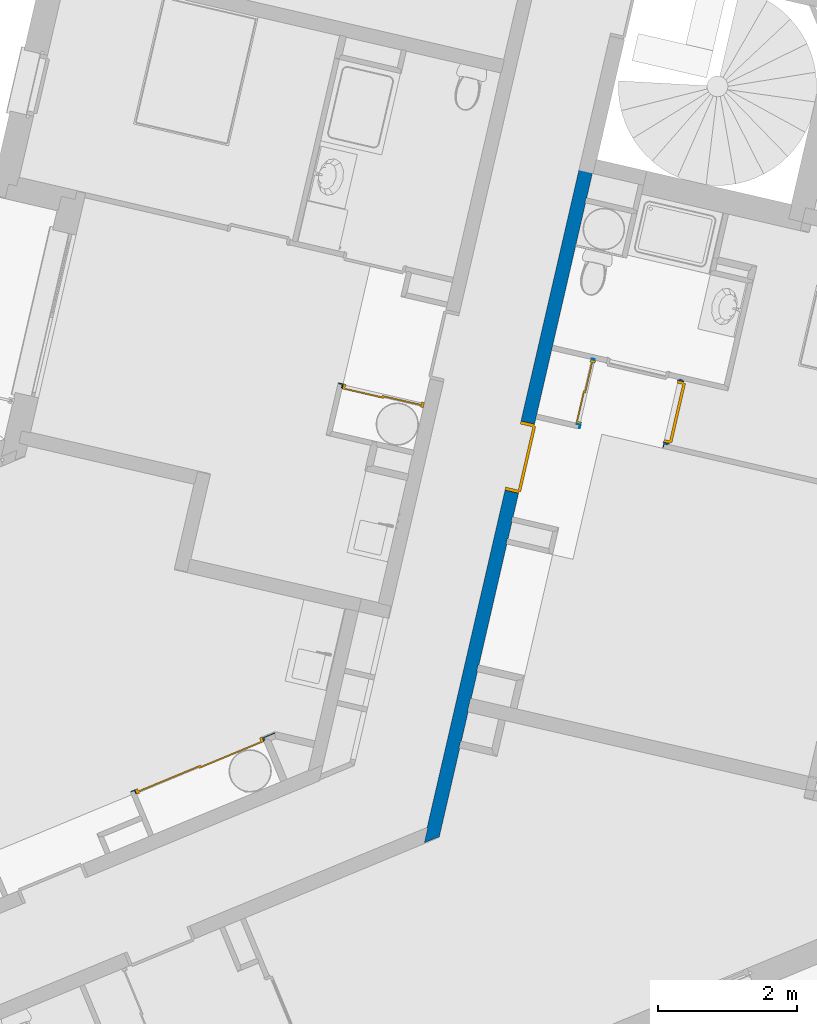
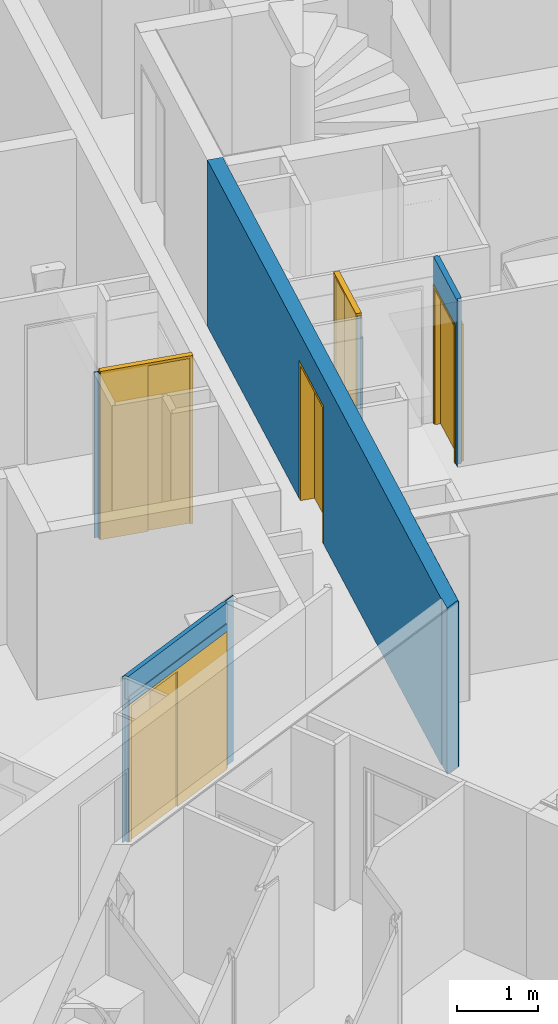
# One storey, part 18 of 90: 5 doors, 5 walls, 5 openings.
"""IFC2X3 building model written with IfcOpenShell, lengths in metres."""

from ifc_helpers import new_model, entity, si_unit, converted_unit, derived_unit, money_unit, direction, frame, origin_with_axes, place, context, subcontext, project, spatial, faceted_brep, source, transform, mapped, material, material_list, type_object, element, fill, save


model = new_model("IFC2X3")

# Units and contexts
model_context = context("Model", 3, precision=1e-05, world=origin_with_axes(), true_north=direction((0.0, 1.0)))
body_context = subcontext(model_context, "Body", "Model", "MODEL_VIEW")
ifc_project = project(units=[si_unit("LENGTHUNIT", "METRE"), si_unit("AREAUNIT", "SQUARE_METRE"), si_unit("VOLUMEUNIT", "CUBIC_METRE"), converted_unit("PLANEANGLEUNIT", "DEGREE", entity("IfcPlaneAngleMeasure", 0.0174532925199), si_unit("PLANEANGLEUNIT", "RADIAN"), dimensions=[0, 0, 0, 0, 0, 0, 0]), si_unit("SOLIDANGLEUNIT", "STERADIAN"), money_unit("EUR"), converted_unit("TIMEUNIT", "Year", entity("IfcTimeMeasure", 31556926.0), si_unit("TIMEUNIT", "SECOND"), dimensions=[0, 0, 1, 0, 0, 0, 0]), si_unit("MASSUNIT", "GRAM", prefix="KILO"), si_unit("THERMODYNAMICTEMPERATUREUNIT", "DEGREE_CELSIUS"), si_unit("LUMINOUSINTENSITYUNIT", "LUMEN"), si_unit("ENERGYUNIT", "JOULE", prefix="MEGA"), derived_unit("THERMALCONDUCTANCEUNIT", [(si_unit("POWERUNIT", "WATT"), 1), (si_unit("LENGTHUNIT", "METRE"), -1), (si_unit("THERMODYNAMICTEMPERATUREUNIT", "KELVIN"), -1)]), derived_unit("SPECIFICHEATCAPACITYUNIT", [(si_unit("ENERGYUNIT", "JOULE"), 1), (si_unit("MASSUNIT", "GRAM", prefix="KILO"), -1), (si_unit("THERMODYNAMICTEMPERATUREUNIT", "KELVIN"), -1)]), derived_unit("MASSDENSITYUNIT", [(si_unit("MASSUNIT", "GRAM", prefix="KILO"), 1), (si_unit("VOLUMEUNIT", "CUBIC_METRE"), -1)])], contexts=[model_context])

# Site, building, storey
site_placement = place(None, origin_with_axes())
site = spatial("IfcSite", under=ifc_project, at=site_placement, Name="Site", CompositionType="ELEMENT")
building_placement = place(site_placement, origin_with_axes())
building = spatial("IfcBuilding", under=site, at=building_placement, Name="Bâtiment", CompositionType="ELEMENT")
storey_placement = place(building_placement, frame((0.0, 0.0, 2.72), z_axis=(0.0, 0.0, 1.0), x_axis=(1.0, 0.0, 0.0)))
storey = spatial("IfcBuildingStorey", under=building, at=storey_placement, Name="R+1", CompositionType="ELEMENT", Elevation=2.72)

# Wall, opening, door
ifc_material_1 = material(Name="Finition int - Plaque de plâtre")
ifc_material_2 = material(Name="Isolation - Laine de roche")
ifc_material_list_1 = material_list([ifc_material_1, ifc_material_2, ifc_material_1])
wall_type_1 = type_object("IfcWallType", Name="3 - Cloison 72mm Placostil 74", PredefinedType="USERDEFINED")
wall_1_placement = place(storey_placement, frame((-17.9705088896, -17.8217225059, 0.0), z_axis=(0.0, 0.0, 1.0), x_axis=(0.923701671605, 0.383112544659, 0.0)))
wall_1 = element("IfcWall", 1, at=wall_1_placement, inside=storey, type_object=wall_type_1, material=ifc_material_list_1, Name="Cloison Placostil 72/48", ObjectType="PARTITIONING", context=body_context, shape_type="Brep", body=[
    faceted_brep([(0.0739999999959, -0.013, 0.0), (0.0739999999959, -0.013, 2.08), (2.05206633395, -0.0129999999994, 2.08), (2.05206633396, -0.0129999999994, 2.5), (0.0129999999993, -0.013, 2.5), (0.0129999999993, -0.013, 0.0), (0.0739999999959, 0.0, 0.0), (0.0739999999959, 0.0, 2.08), (2.05206633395, 0.0, 2.08), (2.05206633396, 0.0, 2.5), (0.013, 0.0, 2.5), (0.013, 0.0, 0.0)], [[[0, 1, 2, 3, 4, 5]], [[1, 0, 6, 7]], [[8, 2, 1, 7]], [[2, 8, 9, 3]], [[3, 9, 10, 4]], [[4, 10, 11, 5]], [[6, 0, 5, 11]], [[7, 6, 11, 10, 9, 8]]]),
    faceted_brep([(0.0739999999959, -0.061, 0.0), (0.0739999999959, -0.061, 2.08), (2.05206633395, -0.061, 2.08), (2.05206633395, -0.061, 0.0), (2.07806634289, -0.061, 0.0), (2.07806634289, -0.061, 2.5), (0.0609999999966, -0.061, 2.5), (0.0609999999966, -0.061, 0.0), (0.0739999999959, -0.013, 0.0), (0.0739999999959, -0.013, 2.08), (2.05206633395, -0.013, 2.08), (2.05206633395, -0.013, 0.0), (2.25206633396, -0.013, 0.0), (2.25206633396, -0.0260000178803, 0.0), (2.24378497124, -0.0260000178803, 0.0), (2.0780663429, -0.0260000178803, 0.0), (2.0780663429, -0.0260000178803, 2.5), (0.0609999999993, -0.013, 2.5), (2.24378497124, -0.0260000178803, 2.5), (2.25206633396, -0.0260000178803, 2.5), (2.25206633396, -0.013, 2.5), (0.0609999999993, -0.013, 0.0)], [[[0, 1, 2, 3, 4, 5, 6, 7]], [[1, 0, 8, 9]], [[2, 1, 9, 10]], [[3, 2, 10, 11]], [[3, 11, 12, 13, 14, 15, 4]], [[16, 5, 4, 15]], [[17, 6, 5, 16, 18, 19, 20]], [[6, 17, 21, 7]], [[8, 0, 7, 21]], [[9, 8, 21, 17, 20, 12, 11, 10]], [[19, 13, 12, 20]], [[19, 18, 16, 15, 14, 13]]]),
    faceted_brep([(0.0739999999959, -0.074, 2.08), (2.05206633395, -0.0739999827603, 2.08), (2.05206633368, -0.0739999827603, 2.2), (0.0739999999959, -0.074, 2.2), (2.05206633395, -0.061, 2.08), (0.0739999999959, -0.061, 2.08), (2.05206633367, -0.061, 2.2), (0.0739999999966, -0.061, 2.2)], [[[0, 1, 2, 3]], [[4, 1, 0, 5]], [[1, 4, 6, 2]], [[2, 6, 7, 3]], [[5, 0, 3, 7]], [[4, 5, 7, 6]]]),
])
opening_1_placement = place(wall_1_placement, frame((1.06303316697, 0.0, 0.0), z_axis=(0.0, 0.0, 1.0), x_axis=(1.0, 0.0, 0.0)))
opening_1 = element("IfcOpeningElement", 2, at=opening_1_placement, cuts=wall_1, Name="Por-002", context=body_context, shape_type="Brep", body=[
    faceted_brep([(0.989033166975, -0.074, 0.0), (-0.989033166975, -0.074, 0.0), (-0.989033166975, 0.074, 0.0), (0.989033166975, 0.074, 0.0), (0.989033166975, -0.074, 2.08), (-0.989033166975, -0.074, 2.08), (-0.989033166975, 0.074, 2.08), (0.989033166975, 0.074, 2.08)], [[[0, 1, 2, 3]], [[0, 4, 5, 1]], [[1, 5, 6, 2]], [[3, 2, 6, 7]], [[4, 0, 3, 7]], [[5, 4, 7, 6]]]),
])
door_style_1 = type_object("IfcDoorStyle", Name="Porte int générique 2019", ConstructionType="NOTDEFINED", OperationType="USERDEFINED", ParameterTakesPrecedence=False, Sizeable=False)
shared_shape_1 = source(origin_with_axes(), body_context, "Body", "Brep", [
    faceted_brep([(-0.989033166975, -0.006, 0.0), (-0.989033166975, -0.006, 2.08), (0.989033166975, -0.006, 2.08), (0.989033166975, -0.006, 0.0), (0.949033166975, -0.006, 0.0), (0.949033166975, -0.006, 2.04), (-0.949033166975, -0.006, 2.04), (-0.949033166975, -0.006, 0.0), (-0.989033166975, -0.08, 0.0), (-0.989033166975, -0.08, 2.08), (0.989033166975, -0.08, 2.08), (0.989033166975, -0.08, 0.0), (0.949033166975, -0.08, 0.0), (0.949033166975, -0.08, 2.04), (-0.949033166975, -0.08, 2.04), (-0.949033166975, -0.08, 0.0)], [[[0, 1, 2, 3, 4, 5, 6, 7]], [[8, 9, 1, 0]], [[9, 10, 2, 1]], [[10, 11, 3, 2]], [[3, 11, 12, 4]], [[5, 4, 12, 13]], [[6, 5, 13, 14]], [[7, 6, 14, 15]], [[0, 7, 15, 8]], [[15, 14, 13, 12, 11, 10, 9, 8]]]),
    faceted_brep([(-0.949033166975, -0.006, 0.0), (0.015, -0.006, 0.0), (0.015, -0.026, 0.0), (-0.949033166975, -0.026, 0.0), (-0.949033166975, -0.006, 2.04), (0.015, -0.006, 2.04), (0.015, -0.026, 2.04), (-0.949033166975, -0.026, 2.04)], [[[0, 1, 2, 3]], [[0, 4, 5, 1]], [[1, 5, 6, 2]], [[3, 2, 6, 7]], [[4, 0, 3, 7]], [[5, 4, 7, 6]]]),
    faceted_brep([(-0.015, -0.026, 0.0), (0.949033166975, -0.026, 0.0), (0.949033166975, -0.046, 0.0), (-0.015, -0.046, 0.0), (-0.015, -0.026, 2.04), (0.949033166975, -0.026, 2.04), (0.949033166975, -0.046, 2.04), (-0.015, -0.046, 2.04)], [[[0, 1, 2, 3]], [[0, 4, 5, 1]], [[1, 5, 6, 2]], [[3, 2, 6, 7]], [[4, 0, 3, 7]], [[5, 4, 7, 6]]]),
])
door_1_placement = place(opening_1_placement, frame((0.949033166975, 0.0, 0.0), z_axis=(0.0, 0.0, 1.0), x_axis=(-1.0, 0.0, 0.0)))
door_1 = element("IfcDoor", 3, at=door_1_placement, inside=storey, type_object=door_style_1, Name="Por-002", ObjectType="DOOR", OverallHeight=2.04, OverallWidth=1.89807, context=body_context, shape_type="MappedRepresentation", body=[
    mapped(shared_shape_1, transform((0.949033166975, 0.08, 0.0))),
])
fill(opening_1, door_1)

wall_2_placement = place(storey_placement, frame((-10.0917592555, -11.900312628, 0.0), z_axis=(0.0, 0.0, 1.0), x_axis=(-0.22487619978, -0.974387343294, 0.0)))
wall_2 = element("IfcWall", 4, at=wall_2_placement, inside=storey, type_object=wall_type_1, material=ifc_material_list_1, Name="Cloison Placostil 72/48", ObjectType="PARTITIONING", context=body_context, shape_type="Brep", body=[
    faceted_brep([(0.924458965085, 0.074, 0.0), (0.924458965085, 0.074, 2.08), (0.014458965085, 0.074, 2.08), (0.014458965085, 0.074, 0.0), (-8.62806714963e-10, 0.074, 0.0), (-8.62806714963e-10, 0.074, 2.5), (0.939833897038, 0.074, 2.5), (0.939833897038, 0.074, 0.0), (0.924458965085, 0.061, 0.0), (0.924458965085, 0.061, 2.08), (0.014458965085, 0.061, 2.08), (0.014458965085, 0.061, 0.0), (-8.63835225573e-10, 0.061, 0.0), (-8.63835225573e-10, 0.061, 2.5), (0.939833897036, 0.061, 2.5), (0.939833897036, 0.061, 0.0)], [[[0, 1, 2, 3, 4, 5, 6, 7]], [[1, 0, 8, 9]], [[2, 1, 9, 10]], [[3, 2, 10, 11]], [[3, 11, 12, 4]], [[4, 12, 13, 5]], [[6, 5, 13, 14]], [[7, 6, 14, 15]], [[8, 0, 7, 15]], [[9, 8, 15, 14, 13, 12, 11, 10]]]),
    faceted_brep([(0.924458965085, 0.061, 0.0), (0.924458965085, 0.061, 2.08), (0.014458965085, 0.061, 2.08), (0.014458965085, 0.061, 0.0), (-0.0130000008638, 0.061, 0.0), (-0.0130000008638, 0.061, 2.5), (0.952833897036, 0.061, 2.5), (0.952833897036, 0.061, 0.0), (0.924458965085, 0.013, 0.0), (0.924458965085, 0.013, 2.08), (0.014458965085, 0.013, 2.08), (0.014458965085, 0.013, 0.0), (-0.0130000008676, 0.013, 0.0), (-0.0130000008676, 0.013, 2.5), (0.952833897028, 0.013, 2.5), (0.952833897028, 0.013, 0.0)], [[[0, 1, 2, 3, 4, 5, 6, 7]], [[1, 0, 8, 9]], [[2, 1, 9, 10]], [[3, 2, 10, 11]], [[3, 11, 12, 4]], [[4, 12, 13, 5]], [[6, 5, 13, 14]], [[7, 6, 14, 15]], [[8, 0, 7, 15]], [[9, 8, 15, 14, 13, 12, 11, 10]]]),
    faceted_brep([(0.924458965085, 0.013, 0.0), (0.924458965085, 0.013, 2.08), (0.014458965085, 0.013, 2.08), (0.014458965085, 0.013, 0.0), (-8.67631300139e-10, 0.013, 0.0), (-8.67631300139e-10, 0.013, 2.5), (1.00083389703, 0.013, 2.5), (1.00083389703, 0.013, 0.0), (0.924458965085, 0.0, 0.0), (0.924458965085, 0.0, 2.08), (0.014458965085, 0.0, 2.08), (0.014458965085, 0.0, 0.0), (-8.68658034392e-10, 0.0, 0.0), (-8.68658034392e-10, 0.0, 2.5), (1.00083389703, 0.0, 2.5), (1.00083389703, 0.0, 0.0)], [[[0, 1, 2, 3, 4, 5, 6, 7]], [[1, 0, 8, 9]], [[2, 1, 9, 10]], [[3, 2, 10, 11]], [[3, 11, 12, 4]], [[4, 12, 13, 5]], [[6, 5, 13, 14]], [[7, 6, 14, 15]], [[8, 0, 7, 15]], [[9, 8, 15, 14, 13, 12, 11, 10]]]),
])
opening_2_placement = place(wall_2_placement, frame((0.469458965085, 0.0, 0.0), z_axis=(0.0, 0.0, 1.0), x_axis=(1.0, 0.0, 0.0)))
opening_2 = element("IfcOpeningElement", 5, at=opening_2_placement, cuts=wall_2, Name="Porte 83x204 bois alvéolaire", context=body_context, shape_type="Brep", body=[
    faceted_brep([(0.455, -0.074, 0.0), (-0.455, -0.074, 0.0), (-0.455, 0.074, 0.0), (0.455, 0.074, 0.0), (0.455, -0.074, 2.08), (-0.455, -0.074, 2.08), (-0.455, 0.074, 2.08), (0.455, 0.074, 2.08)], [[[0, 1, 2, 3]], [[0, 4, 5, 1]], [[1, 5, 6, 2]], [[3, 2, 6, 7]], [[4, 0, 3, 7]], [[5, 4, 7, 6]]]),
])
door_style_2 = type_object("IfcDoorStyle", Name="Porte int générique 2019", ConstructionType="NOTDEFINED", OperationType="SINGLE_SWING_RIGHT", ParameterTakesPrecedence=False, Sizeable=False)
shared_shape_2 = source(origin_with_axes(), body_context, "Body", "Brep", [
    faceted_brep([(0.455, 0.0, 0.0), (0.415, 0.0, 0.0), (0.415, 0.0, 2.04), (-0.415, 0.0, 2.04), (-0.415, 0.0, 0.0), (-0.455, 0.0, 0.0), (-0.455, 0.0, 2.08), (0.455, 0.0, 2.08), (0.455, -0.074, 0.0), (0.415, -0.074, 0.0), (0.415, -0.074, 2.04), (-0.415, -0.074, 2.04), (-0.415, -0.074, 0.0), (-0.455, -0.074, 0.0), (-0.455, -0.074, 2.08), (0.455, -0.074, 2.08)], [[[0, 1, 2, 3, 4, 5, 6, 7]], [[0, 8, 9, 1]], [[1, 9, 10, 2]], [[2, 10, 11, 3]], [[3, 11, 12, 4]], [[5, 4, 12, 13]], [[14, 6, 5, 13]], [[15, 7, 6, 14]], [[8, 0, 7, 15]], [[9, 8, 15, 14, 13, 12, 11, 10]]]),
    faceted_brep([(0.465, 0.0, 0.0), (0.465, 0.01, 0.0), (0.465, 0.01, 2.09), (0.465, 0.0, 2.09), (0.435, 0.0, 0.0), (0.435, 0.01, 0.0), (0.435, 0.01, 2.06), (-0.435, 0.01, 2.06), (-0.435, 0.01, 0.0), (-0.465, 0.01, 0.0), (-0.465, 0.01, 2.09), (-0.465, 0.0, 2.09), (-0.465, 0.0, 0.0), (-0.435, 0.0, 0.0), (-0.435, 0.0, 2.06), (0.435, 0.0, 2.06)], [[[0, 1, 2, 3]], [[0, 4, 5, 1]], [[1, 5, 6, 7, 8, 9, 10, 2]], [[3, 2, 10, 11]], [[4, 0, 3, 11, 12, 13, 14, 15]], [[5, 4, 15, 6]], [[6, 15, 14, 7]], [[7, 14, 13, 8]], [[12, 9, 8, 13]], [[11, 10, 9, 12]]]),
    faceted_brep([(0.465, -0.084, 0.0), (0.465, -0.074, 0.0), (0.465, -0.074, 2.09), (0.465, -0.084, 2.09), (0.435, -0.084, 0.0), (0.435, -0.074, 0.0), (0.435, -0.074, 2.06), (-0.435, -0.074, 2.06), (-0.435, -0.074, 0.0), (-0.465, -0.074, 0.0), (-0.465, -0.074, 2.09), (-0.465, -0.084, 2.09), (-0.465, -0.084, 0.0), (-0.435, -0.084, 0.0), (-0.435, -0.084, 2.06), (0.435, -0.084, 2.06)], [[[0, 1, 2, 3]], [[0, 4, 5, 1]], [[1, 5, 6, 7, 8, 9, 10, 2]], [[3, 2, 10, 11]], [[4, 0, 3, 11, 12, 13, 14, 15]], [[5, 4, 15, 6]], [[6, 15, 14, 7]], [[7, 14, 13, 8]], [[12, 9, 8, 13]], [[11, 10, 9, 12]]]),
    faceted_brep([(0.435, 0.04, 0.0), (0.435, 0.0, 0.0), (-0.435, 0.0, 0.0), (-0.435, 0.04, 0.0), (0.435, 0.04, 2.06), (0.435, 0.0, 2.06), (-0.435, 0.0, 2.06), (-0.435, 0.04, 2.06)], [[[0, 1, 2, 3]], [[4, 5, 1, 0]], [[1, 5, 6, 2]], [[3, 2, 6, 7]], [[0, 3, 7, 4]], [[7, 6, 5, 4]]]),
])
door_2_placement = place(opening_2_placement, frame((-0.415, 0.0, 0.0), z_axis=(0.0, 0.0, 1.0), x_axis=(1.0, 0.0, 0.0)))
door_2 = element("IfcDoor", 6, at=door_2_placement, inside=storey, type_object=door_style_2, Name="Porte 83x204 bois alvéolaire", ObjectType="DOOR", OverallHeight=2.04, OverallWidth=0.83, context=body_context, shape_type="MappedRepresentation", body=[
    mapped(shared_shape_2, transform((0.415, 0.074, 0.0))),
])
fill(opening_2, door_2)

ifc_material_list_2 = material_list([ifc_material_2, ifc_material_1])
wall_3_placement = place(storey_placement, frame((-11.5084989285, -12.6138305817, 0.0), z_axis=(0.0, 0.0, 1.0), x_axis=(0.224876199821, 0.974387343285, 0.0)))
wall_3 = element("IfcWall", 7, at=wall_3_placement, inside=storey, type_object=wall_type_1, material=ifc_material_list_2, Name="Cloison Placostil 72/48", ObjectType="PARTITIONING", context=body_context, shape_type="Brep", body=[
    faceted_brep([(0.0640000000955, 0.0130000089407, 0.0), (0.0640000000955, 0.0130000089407, 2.5), (0.0610000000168, 0.013, 2.5), (0.0610000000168, 0.013, 0.0), (0.0640000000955, 0.0610000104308, 2.5), (0.0640000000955, 0.0610000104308, 0.0), (0.0610000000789, 0.061, 2.5), (0.0610000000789, 0.061, 0.0)], [[[0, 1, 2, 3]], [[4, 1, 0, 5]], [[1, 4, 6, 2]], [[2, 6, 7, 3]], [[5, 0, 3, 7]], [[4, 5, 7, 6]]]),
    faceted_brep([(1.01383389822, 0.0610000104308, 2.5), (1.01383389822, 0.0130000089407, 2.5), (1.026833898, 0.013, 2.5), (1.026833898, 0.061, 2.5), (1.01383389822, 0.0130000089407, 0.0), (1.01383389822, 0.0610000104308, 0.0), (1.026833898, 0.013, 0.0), (1.026833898, 0.061, 0.0)], [[[0, 1, 2, 3]], [[4, 1, 0, 5]], [[1, 4, 6, 2]], [[2, 6, 7, 3]], [[5, 0, 3, 7]], [[4, 5, 7, 6]]]),
    faceted_brep([(0.0640000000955, 0.0, 0.0), (0.0640000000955, 0.0, 2.2), (0.013, 0.0, 2.2), (0.013, 0.0, 0.0), (0.0640000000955, 0.013, 2.2), (0.0640000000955, 0.0130000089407, 0.0), (0.0130000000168, 0.013, 2.2), (0.0130000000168, 0.013, 0.0)], [[[0, 1, 2, 3]], [[4, 1, 0, 5]], [[1, 4, 6, 2]], [[3, 2, 6, 7]], [[5, 0, 3, 7]], [[4, 5, 7, 6]]]),
])
opening_3_placement = place(wall_3_placement, frame((0.538916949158, 0.0, 0.0), z_axis=(0.0, 0.0, 1.0), x_axis=(1.0, 0.0, 0.0)))
opening_3 = element("IfcOpeningElement", 8, at=opening_3_placement, cuts=wall_3, Name="Por-002", context=body_context, shape_type="Brep", body=[
    faceted_brep([(-0.474916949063, 0.074, 0.0), (0.474916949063, 0.074, 0.0), (0.474916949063, -0.074, 0.0), (-0.474916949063, -0.074, 0.0), (-0.474916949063, 0.074, 2.54), (0.474916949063, 0.074, 2.54), (0.474916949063, -0.074, 2.54), (-0.474916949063, -0.074, 2.54)], [[[0, 1, 2, 3]], [[0, 4, 5, 1]], [[1, 5, 6, 2]], [[3, 2, 6, 7]], [[4, 0, 3, 7]], [[5, 4, 7, 6]]]),
])
shared_shape_3 = source(origin_with_axes(), body_context, "Body", "Brep", [
    faceted_brep([(-0.474916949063, -0.006, 0.0), (-0.474916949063, -0.006, 2.54), (0.474916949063, -0.006, 2.54), (0.474916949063, -0.006, 0.0), (0.434916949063, -0.006, 0.0), (0.434916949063, -0.006, 2.5), (-0.434916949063, -0.006, 2.5), (-0.434916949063, -0.006, 0.0), (-0.474916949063, -0.08, 0.0), (-0.474916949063, -0.08, 2.54), (0.474916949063, -0.08, 2.54), (0.474916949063, -0.08, 0.0), (0.434916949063, -0.08, 0.0), (0.434916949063, -0.08, 2.5), (-0.434916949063, -0.08, 2.5), (-0.434916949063, -0.08, 0.0)], [[[0, 1, 2, 3, 4, 5, 6, 7]], [[8, 9, 1, 0]], [[9, 10, 2, 1]], [[10, 11, 3, 2]], [[3, 11, 12, 4]], [[5, 4, 12, 13]], [[6, 5, 13, 14]], [[7, 6, 14, 15]], [[0, 7, 15, 8]], [[15, 14, 13, 12, 11, 10, 9, 8]]]),
    faceted_brep([(-0.434916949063, -0.006, 0.0), (0.015, -0.006, 0.0), (0.015, -0.026, 0.0), (-0.434916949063, -0.026, 0.0), (-0.434916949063, -0.006, 2.5), (0.015, -0.006, 2.5), (0.015, -0.026, 2.5), (-0.434916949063, -0.026, 2.5)], [[[0, 1, 2, 3]], [[0, 4, 5, 1]], [[1, 5, 6, 2]], [[3, 2, 6, 7]], [[4, 0, 3, 7]], [[5, 4, 7, 6]]]),
    faceted_brep([(-0.015, -0.026, 0.0), (0.434916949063, -0.026, 0.0), (0.434916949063, -0.046, 0.0), (-0.015, -0.046, 0.0), (-0.015, -0.026, 2.5), (0.434916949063, -0.026, 2.5), (0.434916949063, -0.046, 2.5), (-0.015, -0.046, 2.5)], [[[0, 1, 2, 3]], [[0, 4, 5, 1]], [[1, 5, 6, 2]], [[3, 2, 6, 7]], [[4, 0, 3, 7]], [[5, 4, 7, 6]]]),
])
door_3_placement = place(opening_3_placement, frame((-0.434916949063, 0.0, 0.0), z_axis=(0.0, 0.0, 1.0), x_axis=(1.0, 0.0, 0.0)))
door_3 = element("IfcDoor", 9, at=door_3_placement, inside=storey, type_object=door_style_1, Name="Por-002", ObjectType="DOOR", OverallHeight=2.5, OverallWidth=0.869834, context=body_context, shape_type="MappedRepresentation", body=[
    mapped(shared_shape_3, transform((0.434916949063, 0.08, 0.0))),
])
fill(opening_3, door_3)

ifc_material_list_3 = material_list([ifc_material_1, ifc_material_2])
wall_4_placement = place(storey_placement, frame((-14.9812094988, -11.9457528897, 0.0), z_axis=(0.0, 0.0, 1.0), x_axis=(0.974387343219, -0.224876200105, 0.0)))
wall_4 = element("IfcWall", 10, at=wall_4_placement, inside=storey, type_object=wall_type_1, material=ifc_material_list_3, Name="Cloison Placostil 72/48", ObjectType="PARTITIONING", context=body_context, shape_type="Brep", body=[
    faceted_brep([(0.0739999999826, -0.013, 2.2), (0.0739999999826, 0.0, 2.2), (0.0740000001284, 0.0, 2.5), (0.0740000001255, -0.013, 2.5), (0.0739999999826, 0.0, 0.0), (0.0739999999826, -0.013, 0.0), (0.013, 0.0, 0.0), (0.013, 0.0, 2.5), (0.0129999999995, -0.013, 2.5), (0.0129999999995, -0.013, 0.0)], [[[0, 1, 2, 3]], [[4, 1, 0, 5]], [[1, 4, 6, 7, 2]], [[2, 7, 8, 3]], [[5, 0, 3, 8, 9]], [[4, 5, 9, 6]], [[8, 7, 6, 9]]]),
    faceted_brep([(0.0739999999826, -0.061, 2.5), (0.0739999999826, -0.013, 2.5), (0.0609999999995, -0.013, 2.5), (0.0609999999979, -0.061, 2.5), (0.0739999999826, -0.013, 0.0), (0.0739999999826, -0.061, 0.0), (0.0609999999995, -0.013, 0.0), (0.0609999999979, -0.061, 0.0)], [[[0, 1, 2, 3]], [[4, 1, 0, 5]], [[1, 4, 6, 2]], [[3, 2, 6, 7]], [[5, 0, 3, 7]], [[4, 5, 7, 6]]]),
])
opening_4_placement = place(wall_4_placement, frame((0.673999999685, 0.0, 0.0), z_axis=(0.0, 0.0, 1.0), x_axis=(1.0, 0.0, 0.0)))
opening_4 = element("IfcOpeningElement", 11, at=opening_4_placement, cuts=wall_4, Name="Por-002", context=body_context, shape_type="Brep", body=[
    faceted_brep([(-0.599999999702, 0.074, 0.0), (0.599999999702, 0.074, 0.0), (0.599999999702, -0.074, 0.0), (-0.599999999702, -0.074, 0.0), (-0.599999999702, 0.074, 2.54), (0.599999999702, 0.074, 2.54), (0.599999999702, -0.074, 2.54), (-0.599999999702, -0.074, 2.54)], [[[0, 1, 2, 3]], [[0, 4, 5, 1]], [[1, 5, 6, 2]], [[3, 2, 6, 7]], [[4, 0, 3, 7]], [[5, 4, 7, 6]]]),
])
shared_shape_4 = source(origin_with_axes(), body_context, "Body", "Brep", [
    faceted_brep([(0.599999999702, -0.006, 0.0), (0.559999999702, -0.006, 0.0), (0.559999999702, -0.006, 2.5), (-0.559999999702, -0.006, 2.5), (-0.559999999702, -0.006, 0.0), (-0.599999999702, -0.006, 0.0), (-0.599999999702, -0.006, 2.54), (0.599999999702, -0.006, 2.54), (0.599999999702, -0.08, 0.0), (0.559999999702, -0.08, 0.0), (0.559999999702, -0.08, 2.5), (-0.559999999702, -0.08, 2.5), (-0.559999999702, -0.08, 0.0), (-0.599999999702, -0.08, 0.0), (-0.599999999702, -0.08, 2.54), (0.599999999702, -0.08, 2.54)], [[[0, 1, 2, 3, 4, 5, 6, 7]], [[0, 8, 9, 1]], [[1, 9, 10, 2]], [[2, 10, 11, 3]], [[3, 11, 12, 4]], [[5, 4, 12, 13]], [[14, 6, 5, 13]], [[15, 7, 6, 14]], [[8, 0, 7, 15]], [[9, 8, 15, 14, 13, 12, 11, 10]]]),
    faceted_brep([(0.559999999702, -0.006, 0.0), (0.559999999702, -0.026, 0.0), (-0.015, -0.026, 0.0), (-0.015, -0.006, 0.0), (0.559999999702, -0.006, 2.5), (0.559999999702, -0.026, 2.5), (-0.015, -0.026, 2.5), (-0.015, -0.006, 2.5)], [[[0, 1, 2, 3]], [[4, 5, 1, 0]], [[1, 5, 6, 2]], [[3, 2, 6, 7]], [[0, 3, 7, 4]], [[7, 6, 5, 4]]]),
    faceted_brep([(0.015, -0.026, 0.0), (0.015, -0.046, 0.0), (-0.559999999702, -0.046, 0.0), (-0.559999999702, -0.026, 0.0), (0.015, -0.026, 2.5), (0.015, -0.046, 2.5), (-0.559999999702, -0.046, 2.5), (-0.559999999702, -0.026, 2.5)], [[[0, 1, 2, 3]], [[4, 5, 1, 0]], [[1, 5, 6, 2]], [[3, 2, 6, 7]], [[0, 3, 7, 4]], [[7, 6, 5, 4]]]),
])
door_4_placement = place(opening_4_placement, frame((0.559999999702, 0.0, 0.0), z_axis=(0.0, 0.0, 1.0), x_axis=(-1.0, 0.0, 0.0)))
door_4 = element("IfcDoor", 12, at=door_4_placement, inside=storey, type_object=door_style_1, Name="Por-002", ObjectType="DOOR", OverallHeight=2.5, OverallWidth=1.12, context=body_context, shape_type="MappedRepresentation", body=[
    mapped(shared_shape_4, transform((0.559999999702, 0.08, 0.0))),
])
fill(opening_4, door_4)

ifc_material_3 = material(Name="Finition int - Enduit plâtre")
ifc_material_4 = material(Name="Béton")
ifc_material_list_4 = material_list([ifc_material_3, ifc_material_4, ifc_material_3])
wall_type_2 = type_object("IfcWallType", Name="2 - Murs Béton 18 + Enduit 2 Faces 200", PredefinedType="USERDEFINED")
wall_5_placement = place(storey_placement, frame((-11.4688567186, -8.70667246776, 0.0), z_axis=(0.0, 0.0, 1.0), x_axis=(-0.224876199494, -0.97438734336, 0.0)))
wall_5 = element("IfcWall", 13, at=wall_5_placement, inside=storey, type_object=wall_type_2, material=ifc_material_list_4, Name="M_Ext-009", ObjectType="SOLIDWALL", context=body_context, shape_type="Brep", body=[
    faceted_brep([(4.91100000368, 0.19, 0.0), (4.91100000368, 0.19, 2.085), (3.89100000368, 0.19, 2.085), (3.89100000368, 0.19, 0.0), (0.629000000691, 0.19, 0.0), (0.629000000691, 0.19, 2.5), (0.555000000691, 0.19, 2.5), (0.555000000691, 0.19, 0.0), (0.0, 0.19, 0.0), (0.0, 0.19, 2.51), (7.94700767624, 0.19, 2.51), (7.94700767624, 0.19, 0.0), (7.5433608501, 0.19, 0.0), (7.5433608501, 0.19, 2.5), (7.4433608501, 0.19, 2.5), (7.4433608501, 0.19, 0.0), (5.66000994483, 0.19, 0.0), (5.66000994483, 0.19, 2.5), (5.58600994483, 0.19, 2.5), (5.58600994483, 0.19, 0.0), (5.33500000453, 0.19, 0.0), (5.33500000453, 0.19, 2.5), (5.26100000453, 0.19, 2.5), (5.26100000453, 0.19, 0.0), (4.91100000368, 0.18, 0.0), (4.91100000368, 0.18, 2.085), (3.89100000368, 0.18, 2.085), (3.89100000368, 0.18, 0.0), (0.629000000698, 0.18, 0.0), (0.629000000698, 0.18, 2.5), (0.555000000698, 0.18, 2.5), (0.555000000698, 0.18, 0.0), (0.0, 0.18, 0.0), (0.0, 0.18, 2.51), (7.94700767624, 0.18, 2.51), (7.94700767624, 0.18, 0.0), (7.54336085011, 0.18, 0.0), (7.54336085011, 0.18, 2.5), (7.44336085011, 0.18, 2.5), (7.44336085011, 0.18, 0.0), (5.66000994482, 0.18, 0.0), (5.66000994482, 0.18, 2.5), (5.58600994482, 0.18, 2.5), (5.58600994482, 0.18, 0.0), (5.33500000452, 0.18, 0.0), (5.33500000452, 0.18, 2.5), (5.26100000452, 0.18, 2.5), (5.26100000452, 0.18, 0.0)], [[[0, 1, 2, 3, 4, 5, 6, 7, 8, 9, 10, 11, 12, 13, 14, 15, 16, 17, 18, 19, 20, 21, 22, 23]], [[1, 0, 24, 25]], [[2, 1, 25, 26]], [[3, 2, 26, 27]], [[3, 27, 28, 4]], [[5, 4, 28, 29]], [[5, 29, 30, 6]], [[7, 6, 30, 31]], [[7, 31, 32, 8]], [[9, 8, 32, 33]], [[34, 10, 9, 33]], [[35, 11, 10, 34]], [[36, 12, 11, 35]], [[13, 12, 36, 37]], [[14, 13, 37, 38]], [[15, 14, 38, 39]], [[15, 39, 40, 16]], [[17, 16, 40, 41]], [[18, 17, 41, 42]], [[19, 18, 42, 43]], [[19, 43, 44, 20]], [[21, 20, 44, 45]], [[22, 21, 45, 46]], [[23, 22, 46, 47]], [[24, 0, 23, 47]], [[25, 24, 47, 46, 45, 44, 43, 42, 41, 40, 39, 38, 37, 36, 35, 34, 33, 32, 31, 30, 29, 28, 27, 26]]]),
    faceted_brep([(8.66700767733, 0.179999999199, 2.49), (8.66700767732, 0.19, 2.49), (8.66700767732, 0.19, 0.0), (8.66700767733, 0.18, 0.0), (9.98700767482, 0.19, 2.49), (9.98185978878, 0.18, 2.49), (9.99414645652, 0.18, 2.49), (9.98700767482, 0.19, 0.0), (9.99414645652, 0.18, 0.0)], [[[0, 1, 2, 3]], [[4, 1, 0, 5, 6]], [[1, 4, 7, 2]], [[8, 3, 2, 7]], [[5, 0, 3, 8, 6]], [[4, 6, 8, 7]]]),
    faceted_brep([(8.12700767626, 0.17999999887, 2.49), (8.12700767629, 0.19, 2.49), (8.12700767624, 0.19, 0.0), (8.12700767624, 0.18, 0.0), (8.56700767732, 0.19, 2.49), (8.56700767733, 0.179999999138, 2.49), (8.56700767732, 0.19, 0.0), (8.56700767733, 0.18, 0.0)], [[[0, 1, 2, 3]], [[4, 1, 0, 5]], [[1, 4, 6, 2]], [[2, 6, 7, 3]], [[5, 0, 3, 7]], [[4, 5, 7, 6]]]),
    faceted_brep([(4.91100000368, 0.18, 0.0), (4.91100000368, 0.18, 2.085), (3.89100000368, 0.18, 2.085), (3.89100000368, 0.18, 0.0), (0.0, 0.18, 0.0), (0.0, 0.18, 2.51), (9.98185978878, 0.18, 2.51), (9.98185978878, 0.18, 0.0), (4.91100000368, 0.0, 0.0), (4.91100000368, 0.0, 2.085), (3.89100000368, 0.0, 2.085), (3.89100000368, 0.0, 0.0), (0.0, 0.0, 0.0), (0.0, 0.0, 2.51), (10.1103578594, 0.0, 2.51), (10.1103578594, 0.0, 0.0)], [[[0, 1, 2, 3, 4, 5, 6, 7]], [[1, 0, 8, 9]], [[2, 1, 9, 10]], [[3, 2, 10, 11]], [[3, 11, 12, 4]], [[4, 12, 13, 5]], [[6, 5, 13, 14]], [[7, 6, 14, 15]], [[8, 0, 7, 15]], [[9, 8, 15, 14, 13, 12, 11, 10]]]),
    faceted_brep([(4.91100000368, 0.0, 0.0), (4.91100000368, 0.0, 2.085), (3.89100000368, 0.0, 2.085), (3.89100000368, 0.0, 0.0), (0.0, 0.0, 0.0), (0.0, 0.0, 2.51), (9.88919784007, 0.0, 2.51), (9.88919784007, 0.0, 0.0), (4.91100000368, -0.01, 0.0), (4.91100000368, -0.01, 2.085), (3.89100000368, -0.01, 2.085), (3.89100000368, -0.01, 0.0), (0.0, -0.01, 0.0), (0.0, -0.01, 2.51), (9.89633662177, -0.01, 2.51), (9.89633662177, -0.01, 0.0)], [[[0, 1, 2, 3, 4, 5, 6, 7]], [[1, 0, 8, 9]], [[2, 1, 9, 10]], [[3, 2, 10, 11]], [[3, 11, 12, 4]], [[4, 12, 13, 5]], [[6, 5, 13, 14]], [[7, 6, 14, 15]], [[8, 0, 7, 15]], [[9, 8, 15, 14, 13, 12, 11, 10]]]),
])
opening_5_placement = place(wall_5_placement, frame((4.40100000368, 0.0, 0.0), z_axis=(0.0, 0.0, 1.0), x_axis=(1.0, 0.0, 0.0)))
opening_5 = element("IfcOpeningElement", 14, at=opening_5_placement, cuts=wall_5, Name="Porte 93x204 bois blindée", context=body_context, shape_type="Brep", body=[
    faceted_brep([(-0.51, 0.2, 0.0), (0.51, 0.2, 0.0), (0.51, -0.2, 0.0), (-0.51, -0.2, 0.0), (-0.51, 0.2, 2.085), (0.51, 0.2, 2.085), (0.51, -0.2, 2.085), (-0.51, -0.2, 2.085)], [[[0, 1, 2, 3]], [[0, 4, 5, 1]], [[1, 5, 6, 2]], [[3, 2, 6, 7]], [[4, 0, 3, 7]], [[5, 4, 7, 6]]]),
])
door_style_3 = type_object("IfcDoorStyle", Name="Porte int générique 2019", ConstructionType="NOTDEFINED", OperationType="SINGLE_SWING_LEFT", ParameterTakesPrecedence=False, Sizeable=False)
shared_shape_5 = source(origin_with_axes(), body_context, "Body", "Brep", [
    faceted_brep([(-0.51, 0.0, 0.0), (-0.51, 0.0, 2.085), (0.51, 0.0, 2.085), (0.51, 0.0, 0.0), (0.48, 0.0, 0.0), (0.48, 0.0, 2.055), (-0.48, 0.0, 2.055), (-0.48, 0.0, 0.0), (-0.51, -0.2, 0.0), (-0.51, -0.2, 2.085), (0.51, -0.2, 2.085), (0.51, -0.2, 0.0), (0.465, -0.2, 0.0), (0.465, -0.015, 0.0), (0.48, -0.015, 0.0), (0.48, -0.015, 2.055), (-0.48, -0.015, 2.055), (-0.48, -0.015, 0.0), (-0.465, -0.015, 0.0), (-0.465, -0.2, 0.0), (-0.465, -0.2, 2.04), (0.465, -0.2, 2.04), (0.465, -0.015, 2.04), (-0.465, -0.015, 2.04)], [[[0, 1, 2, 3, 4, 5, 6, 7]], [[8, 9, 1, 0]], [[9, 10, 2, 1]], [[10, 11, 3, 2]], [[3, 11, 12, 13, 14, 4]], [[5, 4, 14, 15]], [[6, 5, 15, 16]], [[7, 6, 16, 17]], [[0, 7, 17, 18, 19, 8]], [[19, 20, 21, 12, 11, 10, 9, 8]], [[22, 13, 12, 21]], [[17, 16, 15, 14, 13, 22, 23, 18]], [[18, 23, 20, 19]], [[23, 22, 21, 20]]]),
    faceted_brep([(-0.48, 0.025, 0.0), (0.48, 0.025, 0.0), (0.48, -0.015, 0.0), (-0.48, -0.015, 0.0), (-0.48, 0.025, 2.055), (0.48, 0.025, 2.055), (0.48, -0.015, 2.055), (-0.48, -0.015, 2.055)], [[[0, 1, 2, 3]], [[0, 4, 5, 1]], [[1, 5, 6, 2]], [[3, 2, 6, 7]], [[4, 0, 3, 7]], [[5, 4, 7, 6]]]),
])
door_5_placement = place(opening_5_placement, frame((-0.465, 0.0, 0.0), z_axis=(0.0, 0.0, 1.0), x_axis=(1.0, 0.0, 0.0)))
door_5 = element("IfcDoor", 15, at=door_5_placement, inside=storey, type_object=door_style_3, Name="Porte 93x204 bois blindée", ObjectType="DOOR", OverallHeight=2.04, OverallWidth=0.93, context=body_context, shape_type="MappedRepresentation", body=[
    mapped(shared_shape_5, transform((0.465, 0.19, 0.0))),
])
fill(opening_5, door_5)

save(model, "model.ifc")
